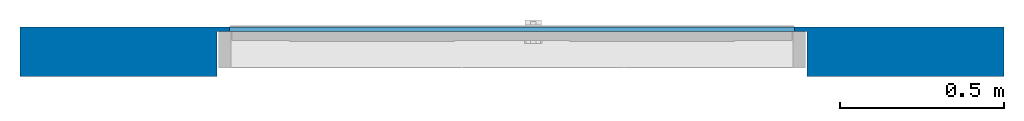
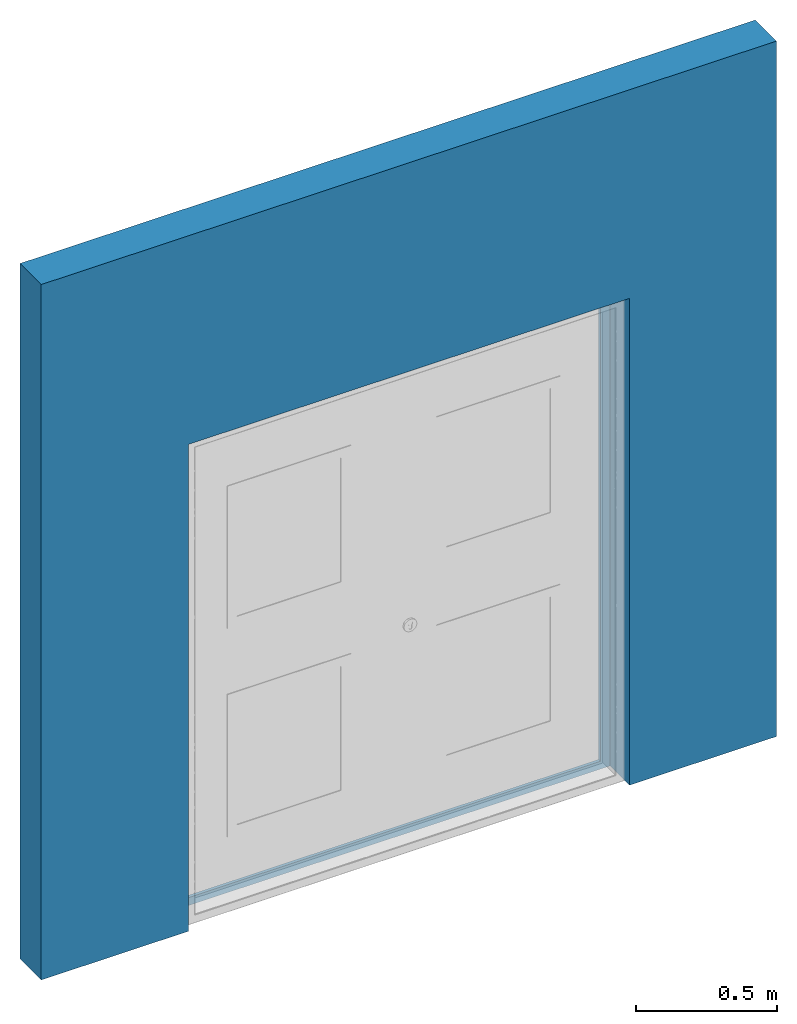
# One storey, incomplete: 1 wall, 1 opening.
"""IFC2X3 building model written with IfcOpenShell, lengths in millimetres."""

from ifc_helpers import new_model, entity, si_unit, converted_unit, derived_unit, direction, frame, frame_2d, origin, place, context, subcontext, project, spatial, rectangle, extrude, faceted_brep, material, layer, layer_set, layer_usage, type_object, element, save


model = new_model("IFC2X3")

# Units and contexts
model_context = context("Model", 3, precision=0.01, world=origin(), true_north=direction((6.12303176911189e-17, 1.0)))
body_context = subcontext(model_context, "Body", "Model", "MODEL_VIEW")
ifc_project = project(units=[si_unit("LENGTHUNIT", "METRE", prefix="MILLI"), si_unit("AREAUNIT", "SQUARE_METRE"), si_unit("VOLUMEUNIT", "CUBIC_METRE"), converted_unit("PLANEANGLEUNIT", "DEGREE", entity("IfcRatioMeasure", 0.0174532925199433), si_unit("PLANEANGLEUNIT", "RADIAN"), dimensions=[0, 0, 0, 0, 0, 0, 0]), si_unit("MASSUNIT", "GRAM", prefix="KILO"), si_unit("TIMEUNIT", "SECOND"), si_unit("FREQUENCYUNIT", "HERTZ"), si_unit("THERMODYNAMICTEMPERATUREUNIT", "DEGREE_CELSIUS"), derived_unit("THERMALTRANSMITTANCEUNIT", [(si_unit("MASSUNIT", "GRAM", prefix="KILO"), 1), (si_unit("THERMODYNAMICTEMPERATUREUNIT", "KELVIN"), -1), (si_unit("TIMEUNIT", "SECOND"), -3)]), derived_unit("VOLUMETRICFLOWRATEUNIT", [(si_unit("LENGTHUNIT", "METRE"), 3), (si_unit("TIMEUNIT", "SECOND"), -1)]), si_unit("ELECTRICCURRENTUNIT", "AMPERE"), si_unit("ELECTRICVOLTAGEUNIT", "VOLT"), si_unit("POWERUNIT", "WATT"), si_unit("FORCEUNIT", "NEWTON", prefix="KILO"), si_unit("ILLUMINANCEUNIT", "LUX"), si_unit("LUMINOUSFLUXUNIT", "LUMEN"), si_unit("LUMINOUSINTENSITYUNIT", "CANDELA"), si_unit("PRESSUREUNIT", "PASCAL")], contexts=[model_context])

# Site, building, storey
site_placement = place(None, origin())
site = spatial("IfcSite", under=ifc_project, at=site_placement, Name="Default", CompositionType="ELEMENT")
building_placement = place(site_placement, origin())
building = spatial("IfcBuilding", under=site, at=building_placement, CompositionType="ELEMENT")
storey_placement = place(building_placement, origin())
storey = spatial("IfcBuildingStorey", under=building, at=storey_placement, Name="Level 1", CompositionType="ELEMENT", Elevation=0.0)

# Wall, opening
ifc_material = material(Name="nbl_Concept")
ifc_layer = layer(ifc_material, 150.0)
ifc_layer_set = layer_set([ifc_layer], Name="Basic Wall:NBS_Int_Concept")
ifc_layer_usage = layer_usage(ifc_layer_set, "AXIS2", "POSITIVE", -75.0)
wall_type = type_object("IfcWallType", Name="Basic Wall:NBS_Int_Concept", PredefinedType="STANDARD", material=ifc_layer_set)
wall_placement = place(storey_placement, frame((-1500.0, 0.0, 0.0)))
wall = element("IfcWallStandardCase", 1, at=wall_placement, inside=storey, type_object=wall_type, material=ifc_layer_usage, Name="Basic Wall:NBS_Int_Concept:2301", ObjectType="Basic Wall:NBS_Int_Concept:2340", context=body_context, shape_type="SweptSolid", body=[
    extrude(rectangle(XDim=3000.0, YDim=150.0, at=frame_2d((1500.0, 0.0), x_axis=(-1.0, 0.0))), origin(), (0.0, 0.0, 1.0), 3000.0),
])
opening_placement = place(wall_placement, frame((1500.0, 0.0, 0.0)))
element("IfcOpeningElement", 2, at=opening_placement, cuts=wall, Name="Basic Wall:NBS_Int_Concept:2301", ObjectType="Opening", context=body_context, shape_type="Brep", body=[
    faceted_brep([(860.99538029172, 80.0, 2066.0), (860.99538029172, 80.0, 34.0), (-860.996616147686, 80.0, 34.0), (-860.996616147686, 80.0, 2066.0), (-860.996616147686, 62.0, 2066.0), (860.99538029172, 62.0, 2066.0), (-860.996616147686, 62.0, 34.0), (860.99538029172, 62.0, 34.0), (900.0, 62.0, 2100.0), (900.0, 62.0, 0.0), (-900.0, 62.0, 0.0), (-900.0, 62.0, 2100.0), (900.0, -75.0, 2100.0), (-900.0, -75.0, 2100.0), (-900.0, -75.0, 0.0), (900.0, -75.0, 0.0)], [[[0, 1, 2, 3]], [[3, 4, 5, 0]], [[2, 6, 4, 3]], [[1, 7, 6, 2]], [[0, 5, 7, 1]], [[8, 9, 10, 11], [4, 6, 7, 5]], [[12, 13, 14, 15]], [[11, 13, 12, 8]], [[10, 14, 13, 11]], [[9, 15, 14, 10]], [[8, 12, 15, 9]]]),
])

save(model, "model.ifc")
